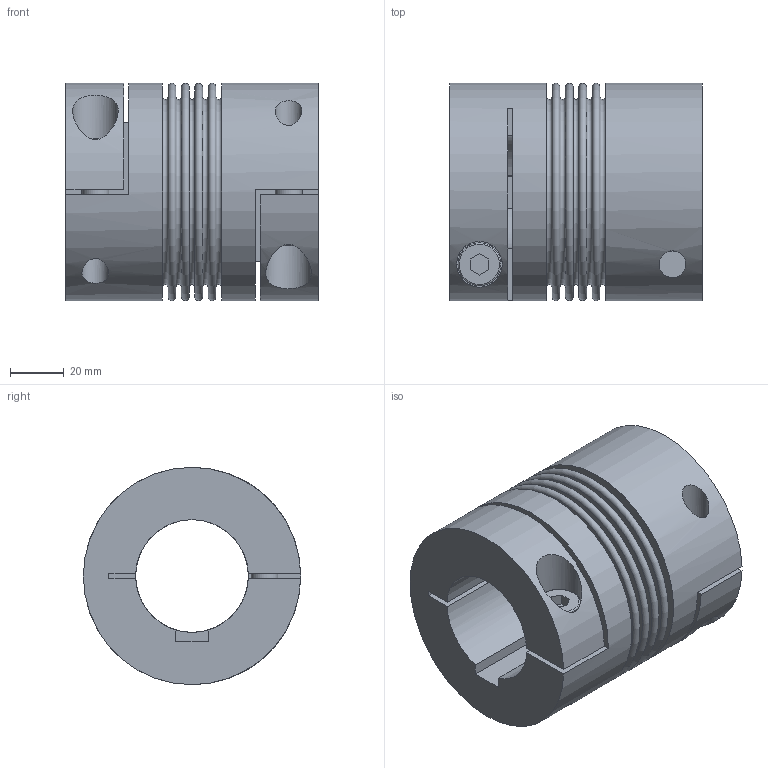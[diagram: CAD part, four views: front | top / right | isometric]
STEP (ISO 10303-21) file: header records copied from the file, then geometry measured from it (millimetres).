
FILE_DESCRIPTION(/* description */ ('STEP AP214'),/* implementation_level */ '2;1');
FILE_NAME(/* name */ 'C:\Diequa Files\DieQua Coupling\Website Step Files\BC.80.94.#.#.stp',/* time_stamp */ '2018-10-25T16:21:13-05:00',/* author */ ('DiequaCAD'),/* organization */ (''),/* preprocessor_version */ 'ST-DEVELOPER v17.2',/* originating_system */ 'Autodesk Inventor 2019',/* authorisation */ ' ');
FILE_SCHEMA (('AUTOMOTIVE_DESIGN { 1 0 10303 214 3 1 1 }'));
Length unit declared in the file: millimetre
Products named in the file (1): BC2.80.94.#.#
Bounding box: 94 x 81 x 81 mm (x, y, z)
Volume: 272446 mm3; surface area: 74064.1 mm2
Topology: 1 solids, 1 shells, 80 faces, 211 edges, 151 vertices
Faces by surface type: plane 54, cylinder 15, torus 11
Full cylindrical faces by diameter (mm): 10 x4, 16 x2, 17 x2, 67 x1, 81 x2
Entity records: 2761 total; most frequent: CARTESIAN_POINT 593, DIRECTION 465, ORIENTED_EDGE 422, EDGE_CURVE 211, AXIS2_PLACEMENT_3D 179, VERTEX_POINT 151, LINE 107, VECTOR 107
